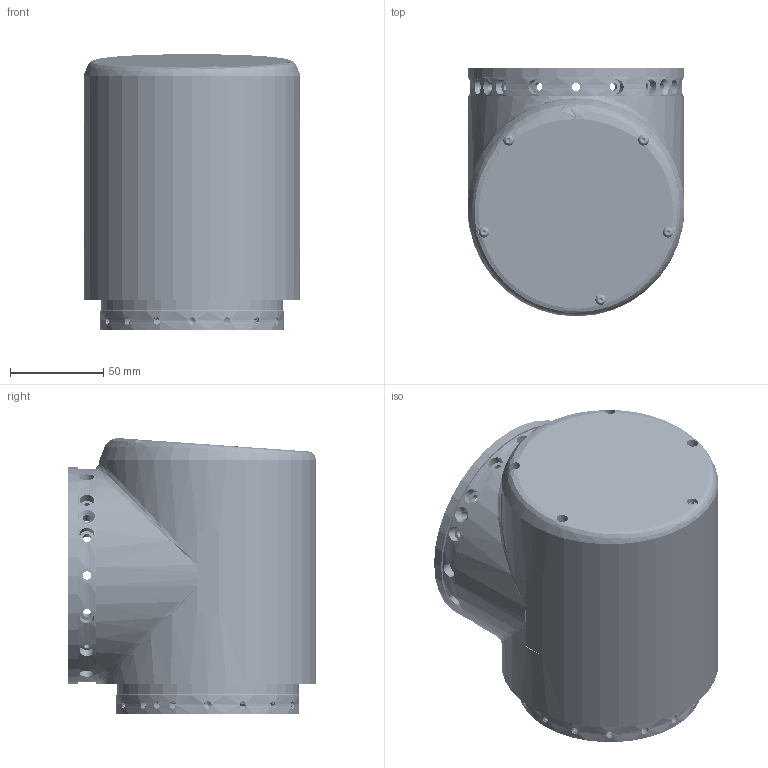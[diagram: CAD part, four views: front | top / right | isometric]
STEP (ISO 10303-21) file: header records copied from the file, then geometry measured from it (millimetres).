
FILE_DESCRIPTION (( 'STEP AP203' ), '1' );
FILE_NAME ('eRob110H｡ﾁ｡ﾁT-XX-18EX_V4_MC2B.BX.XX.step', '2025-03-20T11:35:13', ( 'Windows User' ), ( 'P R C' ), 'SwSTEP 2.0', 'SolidWorks 2021', '' );
FILE_SCHEMA (( 'CONFIG_CONTROL_DESIGN' ));
Length unit declared in the file: millimetre
Products named in the file (1): eRob110H××T-XX-18EX_V4_MC2B.BX.XX
Bounding box: 116 x 133 x 147.47 mm (x, y, z)
Volume: 1106337.4 mm3; surface area: 206508.1 mm2
Topology: 2 solids, 2 shells, 5556 faces, 14808 edges, 9477 vertices
Faces by surface type: plane 2868, cylinder 1738, bspline 538, cone 195, torus 127, sphere 90
Entity records: 307108 total; most frequent: CARTESIAN_POINT 177306, ORIENTED_EDGE 29276, DIRECTION 23999, EDGE_CURVE 14638, VERTEX_POINT 9459, VECTOR 8957, LINE 8957, AXIS2_PLACEMENT_3D 7521
